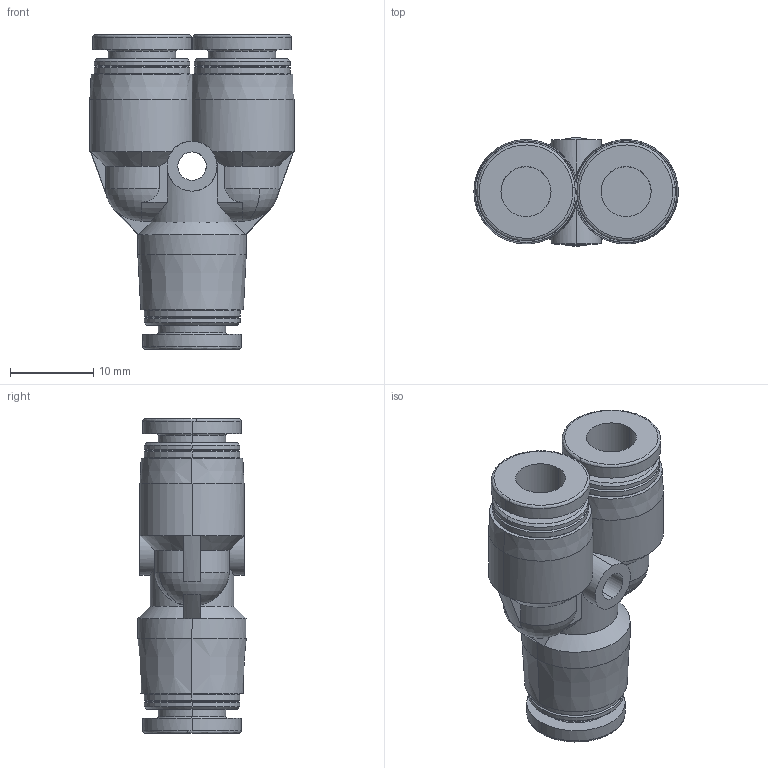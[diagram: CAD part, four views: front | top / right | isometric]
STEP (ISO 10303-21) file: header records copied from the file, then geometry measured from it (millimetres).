
FILE_DESCRIPTION (( 'STEP AP214' ), '1' );
FILE_NAME ('APY6.STEP', '2019-11-18T02:03:06', ( '微软用户' ), ( '微软中国' ), 'SwSTEP 2.0', 'SolidWorks 2016', '' );
FILE_SCHEMA (( 'AUTOMOTIVE_DESIGN' ));
Length unit declared in the file: millimetre
Products named in the file (1): APY6
Bounding box: 24.49 x 13 x 37.7 mm (x, y, z)
Volume: 4835.3 mm3; surface area: 3941.4 mm2
Topology: 1 solids, 1 shells, 147 faces, 353 edges, 220 vertices
Faces by surface type: cylinder 55, cone 44, plane 28, bspline 16, torus 4
Entity records: 7298 total; most frequent: CARTESIAN_POINT 4072, ORIENTED_EDGE 706, DIRECTION 605, EDGE_CURVE 353, AXIS2_PLACEMENT_3D 246, VERTEX_POINT 220, EDGE_LOOP 161, FACE_OUTER_BOUND 147
